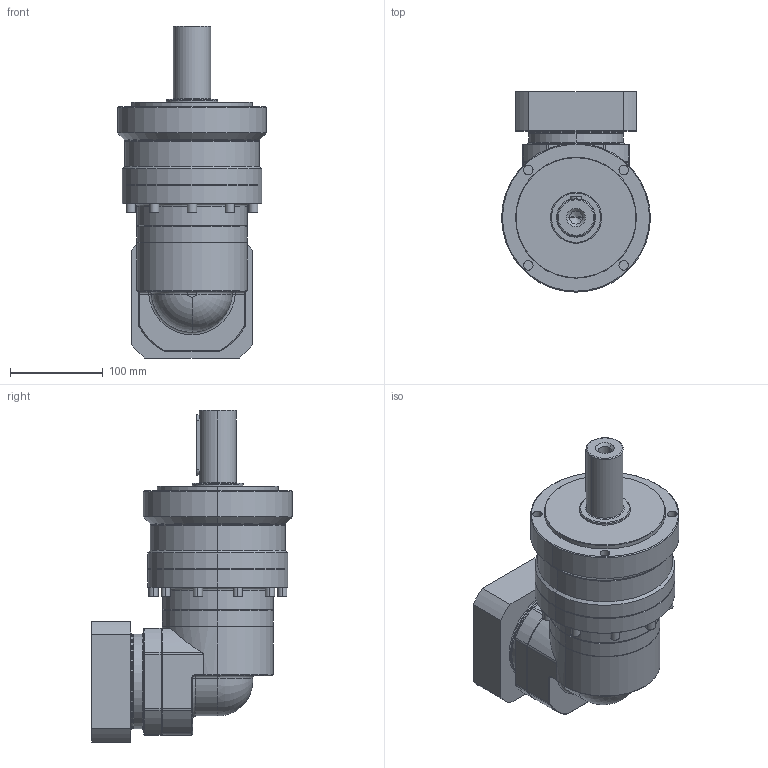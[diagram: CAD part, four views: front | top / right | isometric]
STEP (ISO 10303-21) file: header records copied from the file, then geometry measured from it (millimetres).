
FILE_DESCRIPTION (( 'STEP AP214' ), '1' );
FILE_NAME ('FER160-L2-S2-P2 24-110-145-M8.STEP', '2025-02-19T03:48:15', ( '微软用户' ), ( '微软中国' ), 'SwSTEP 2.0', 'SolidWorks 2021', '' );
FILE_SCHEMA (( 'AUTOMOTIVE_DESIGN' ));
Length unit declared in the file: millimetre
Products named in the file (1): FER160-L2-S2-P2 24-110-145-M8
Bounding box: 160 x 215.5 x 357 mm (x, y, z)
Volume: 4415499.6 mm3; surface area: 239663.7 mm2
Topology: 1 solids, 1 shells, 350 faces, 789 edges, 479 vertices
Faces by surface type: plane 146, cylinder 110, cone 75, torus 15, sphere 2, bspline 2
Entity records: 10183 total; most frequent: CARTESIAN_POINT 2156, DIRECTION 1757, ORIENTED_EDGE 1574, EDGE_CURVE 787, AXIS2_PLACEMENT_3D 648, VERTEX_POINT 479, LINE 461, VECTOR 461
